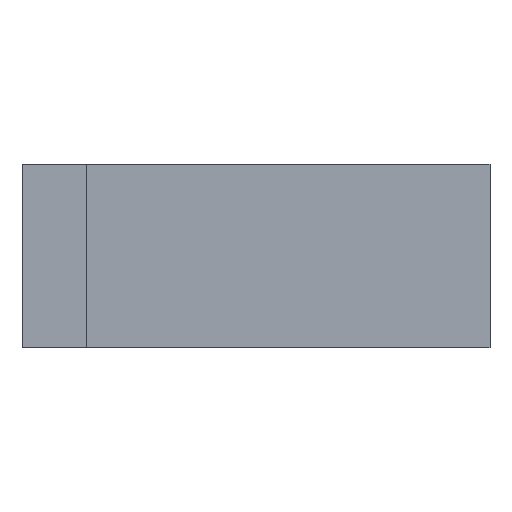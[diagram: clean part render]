
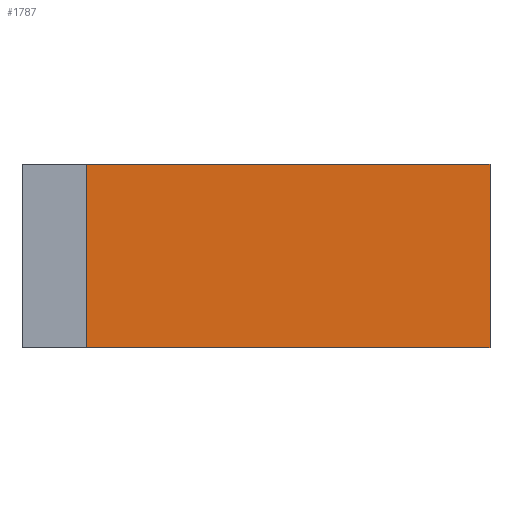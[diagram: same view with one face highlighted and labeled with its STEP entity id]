
A CAD part, left-side view. The second image highlights one B-rep face of the part: STEP entity #1787.
In plain terms, the highlighted planar face has unit normal (-1, 0, 0).
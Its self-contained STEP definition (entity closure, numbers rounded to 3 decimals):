
#21=FACE_OUTER_BOUND('',#111,.T.);
#111=EDGE_LOOP('',(#1271,#1272,#1273,#1274));
#210=LINE('',#2456,#474);
#294=LINE('',#2622,#558);
#295=LINE('',#2625,#559);
#296=LINE('',#2626,#560);
#474=VECTOR('',#2002,10.);
#558=VECTOR('',#2088,10.);
#559=VECTOR('',#2091,10.);
#560=VECTOR('',#2092,10.);
#735=VERTEX_POINT('',#2453);
#736=VERTEX_POINT('',#2455);
#817=VERTEX_POINT('',#2620);
#818=VERTEX_POINT('',#2624);
#914=EDGE_CURVE('',#736,#735,#210,.T.);
#998=EDGE_CURVE('',#735,#817,#294,.T.);
#999=EDGE_CURVE('',#817,#818,#295,.T.);
#1000=EDGE_CURVE('',#736,#818,#296,.T.);
#1271=ORIENTED_EDGE('',*,*,#914,.T.);
#1272=ORIENTED_EDGE('',*,*,#998,.T.);
#1273=ORIENTED_EDGE('',*,*,#999,.T.);
#1274=ORIENTED_EDGE('',*,*,#1000,.F.);
#1697=PLANE('',#1891);
#1787=ADVANCED_FACE('',(#21),#1697,.T.);
#1891=AXIS2_PLACEMENT_3D('',#2623,#2089,#2090);
#2002=DIRECTION('',(0.,-1.,0.));
#2088=DIRECTION('',(0.,0.,1.));
#2089=DIRECTION('center_axis',(-1.,0.,0.));
#2090=DIRECTION('ref_axis',(0.,0.,1.));
#2091=DIRECTION('',(0.,1.,0.));
#2092=DIRECTION('',(0.,0.,1.));
#2453=CARTESIAN_POINT('',(-122.083,-18.729,0.));
#2455=CARTESIAN_POINT('',(-122.083,-12.129,0.));
#2456=CARTESIAN_POINT('',(-122.083,-15.429,0.));
#2620=CARTESIAN_POINT('',(-122.083,-18.729,3.));
#2622=CARTESIAN_POINT('',(-122.083,-18.729,0.75));
#2623=CARTESIAN_POINT('Origin',(-122.083,-15.429,1.5));
#2624=CARTESIAN_POINT('',(-122.083,-12.129,3.));
#2625=CARTESIAN_POINT('',(-122.083,-15.429,3.));
#2626=CARTESIAN_POINT('',(-122.083,-12.129,0.));
